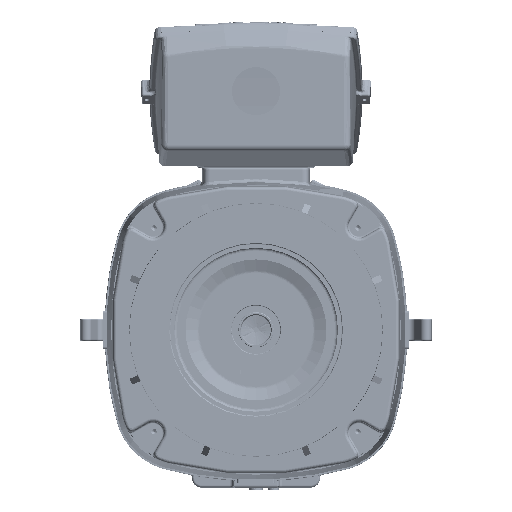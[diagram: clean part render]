
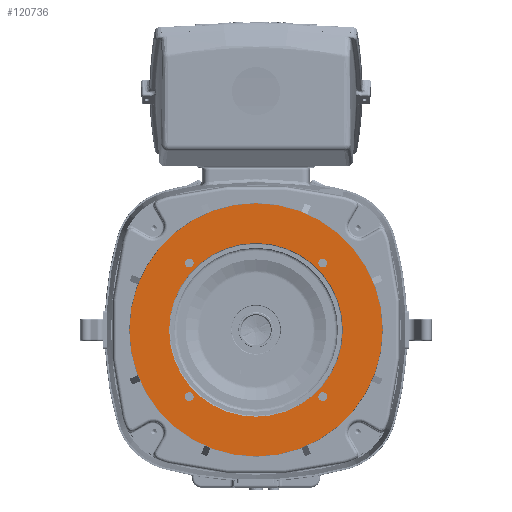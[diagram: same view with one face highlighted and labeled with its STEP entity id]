
A CAD part, front view. The second image highlights one B-rep face of the part: STEP entity #120736.
In plain terms, the highlighted planar face has unit normal (0, -1, 0) as drawn and (0, 0, -1) by its records, which use the part's own axes.
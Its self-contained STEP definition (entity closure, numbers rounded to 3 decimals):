
#109438=CARTESIAN_POINT('',(0.,0.,-6.755));
#109439=DIRECTION('',(0.,0.,-1.));
#109440=DIRECTION('',(0.,1.,0.));
#109441=AXIS2_PLACEMENT_3D('',#109438,#109439,#109440);
#109443=CARTESIAN_POINT('',(0.,0.,-6.755));
#109444=DIRECTION('',(0.,0.,-1.));
#109445=DIRECTION('',(0.,-1.,0.));
#109446=AXIS2_PLACEMENT_3D('',#109443,#109444,#109445);
#109448=CARTESIAN_POINT('',(5.215,5.215,-6.755));
#109449=DIRECTION('',(0.,0.,1.));
#109450=DIRECTION('',(1.,0.,0.));
#109451=AXIS2_PLACEMENT_3D('',#109448,#109449,#109450);
#109453=CARTESIAN_POINT('',(5.215,5.215,-6.755));
#109454=DIRECTION('',(0.,0.,1.));
#109455=DIRECTION('',(-1.,0.,0.));
#109456=AXIS2_PLACEMENT_3D('',#109453,#109454,#109455);
#109458=CARTESIAN_POINT('',(5.215,-5.215,-6.755));
#109459=DIRECTION('',(0.,0.,1.));
#109460=DIRECTION('',(1.,0.,0.));
#109461=AXIS2_PLACEMENT_3D('',#109458,#109459,#109460);
#109463=CARTESIAN_POINT('',(5.215,-5.215,-6.755));
#109464=DIRECTION('',(0.,0.,1.));
#109465=DIRECTION('',(-1.,0.,0.));
#109466=AXIS2_PLACEMENT_3D('',#109463,#109464,#109465);
#109468=CARTESIAN_POINT('',(-5.215,-5.215,-6.755));
#109469=DIRECTION('',(0.,0.,1.));
#109470=DIRECTION('',(1.,0.,0.));
#109471=AXIS2_PLACEMENT_3D('',#109468,#109469,#109470);
#109473=CARTESIAN_POINT('',(-5.215,-5.215,-6.755));
#109474=DIRECTION('',(0.,0.,1.));
#109475=DIRECTION('',(-1.,0.,0.));
#109476=AXIS2_PLACEMENT_3D('',#109473,#109474,#109475);
#109478=CARTESIAN_POINT('',(-5.215,5.215,-6.755));
#109479=DIRECTION('',(0.,0.,1.));
#109480=DIRECTION('',(1.,0.,0.));
#109481=AXIS2_PLACEMENT_3D('',#109478,#109479,#109480);
#109483=CARTESIAN_POINT('',(-5.215,5.215,-6.755));
#109484=DIRECTION('',(0.,0.,1.));
#109485=DIRECTION('',(-1.,0.,0.));
#109486=AXIS2_PLACEMENT_3D('',#109483,#109484,#109485);
#109496=CARTESIAN_POINT('',(0.,0.,-6.755));
#109497=DIRECTION('',(0.,0.,-1.));
#109498=DIRECTION('',(0.,1.,0.));
#109499=AXIS2_PLACEMENT_3D('',#109496,#109497,#109498);
#109501=CARTESIAN_POINT('',(0.,0.,-6.755));
#109502=DIRECTION('',(0.,0.,1.));
#109503=DIRECTION('',(0.,1.,0.));
#109504=AXIS2_PLACEMENT_3D('',#109501,#109502,#109503);
#116511=CARTESIAN_POINT('',(0.,6.78,-6.755));
#116513=VERTEX_POINT('',#116511);
#116529=CARTESIAN_POINT('',(0.,-6.78,-6.755));
#116531=VERTEX_POINT('',#116529);
#116899=CARTESIAN_POINT('',(0.,9.878,-6.755));
#116900=CARTESIAN_POINT('',(0.,-9.878,-6.755));
#116901=VERTEX_POINT('',#116899);
#116902=VERTEX_POINT('',#116900);
#116945=CARTESIAN_POINT('',(5.559,5.215,-6.755));
#116946=CARTESIAN_POINT('',(4.871,5.215,-6.755));
#116947=VERTEX_POINT('',#116945);
#116948=VERTEX_POINT('',#116946);
#116953=CARTESIAN_POINT('',(5.559,-5.215,-6.755));
#116954=CARTESIAN_POINT('',(4.871,-5.215,-6.755));
#116955=VERTEX_POINT('',#116953);
#116956=VERTEX_POINT('',#116954);
#116961=CARTESIAN_POINT('',(-4.871,-5.215,-6.755));
#116962=CARTESIAN_POINT('',(-5.559,-5.215,-6.755));
#116963=VERTEX_POINT('',#116961);
#116964=VERTEX_POINT('',#116962);
#116969=CARTESIAN_POINT('',(-4.871,5.215,-6.755));
#116970=CARTESIAN_POINT('',(-5.559,5.215,-6.755));
#116971=VERTEX_POINT('',#116969);
#116972=VERTEX_POINT('',#116970);
#120696=CARTESIAN_POINT('',(0.,0.,-6.755));
#120697=DIRECTION('',(0.,0.,1.));
#120698=DIRECTION('',(0.,1.,0.));
#120699=AXIS2_PLACEMENT_3D('',#120696,#120697,#120698);
#120700=PLANE('',#120699);
#120702=ORIENTED_EDGE('',*,*,#120701,.F.);
#120703=ORIENTED_EDGE('',*,*,#120686,.F.);
#120704=EDGE_LOOP('',(#120702,#120703));
#120705=FACE_OUTER_BOUND('',#120704,.F.);
#120707=ORIENTED_EDGE('',*,*,#120706,.T.);
#120709=ORIENTED_EDGE('',*,*,#120708,.F.);
#120710=EDGE_LOOP('',(#120707,#120709));
#120711=FACE_BOUND('',#120710,.F.);
#120713=ORIENTED_EDGE('',*,*,#120712,.F.);
#120715=ORIENTED_EDGE('',*,*,#120714,.F.);
#120716=EDGE_LOOP('',(#120713,#120715));
#120717=FACE_BOUND('',#120716,.F.);
#120719=ORIENTED_EDGE('',*,*,#120718,.F.);
#120721=ORIENTED_EDGE('',*,*,#120720,.F.);
#120722=EDGE_LOOP('',(#120719,#120721));
#120723=FACE_BOUND('',#120722,.F.);
#120725=ORIENTED_EDGE('',*,*,#120724,.F.);
#120727=ORIENTED_EDGE('',*,*,#120726,.F.);
#120728=EDGE_LOOP('',(#120725,#120727));
#120729=FACE_BOUND('',#120728,.F.);
#120731=ORIENTED_EDGE('',*,*,#120730,.F.);
#120733=ORIENTED_EDGE('',*,*,#120732,.F.);
#120734=EDGE_LOOP('',(#120731,#120733));
#120735=FACE_BOUND('',#120734,.F.);
#120736=ADVANCED_FACE('',(#120705,#120711,#120717,#120723,#120729,#120735),
#120700,.F.);
#109442=CIRCLE('',#109441,9.878);
#109447=CIRCLE('',#109446,9.878);
#109452=CIRCLE('',#109451,0.344);
#109457=CIRCLE('',#109456,0.344);
#109462=CIRCLE('',#109461,0.344);
#109467=CIRCLE('',#109466,0.344);
#109472=CIRCLE('',#109471,0.344);
#109477=CIRCLE('',#109476,0.344);
#109482=CIRCLE('',#109481,0.344);
#109487=CIRCLE('',#109486,0.344);
#109500=CIRCLE('',#109499,6.78);
#109505=CIRCLE('',#109504,6.78);
#120686=EDGE_CURVE('',#116902,#116901,#109447,.T.);
#120701=EDGE_CURVE('',#116901,#116902,#109442,.T.);
#120706=EDGE_CURVE('',#116513,#116531,#109500,.T.);
#120708=EDGE_CURVE('',#116513,#116531,#109505,.T.);
#120712=EDGE_CURVE('',#116947,#116948,#109452,.T.);
#120714=EDGE_CURVE('',#116948,#116947,#109457,.T.);
#120718=EDGE_CURVE('',#116955,#116956,#109462,.T.);
#120720=EDGE_CURVE('',#116956,#116955,#109467,.T.);
#120724=EDGE_CURVE('',#116963,#116964,#109472,.T.);
#120726=EDGE_CURVE('',#116964,#116963,#109477,.T.);
#120730=EDGE_CURVE('',#116971,#116972,#109482,.T.);
#120732=EDGE_CURVE('',#116972,#116971,#109487,.T.);
